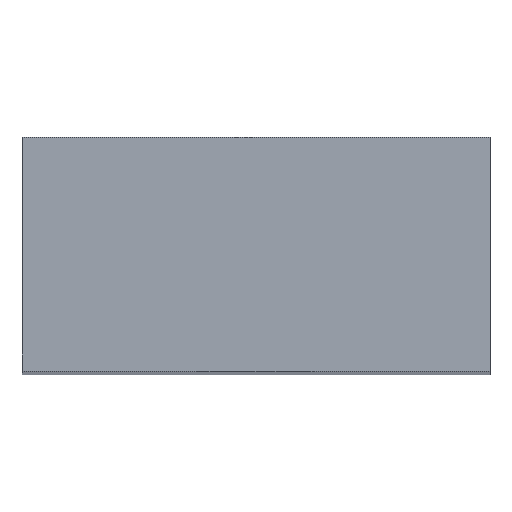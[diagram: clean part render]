
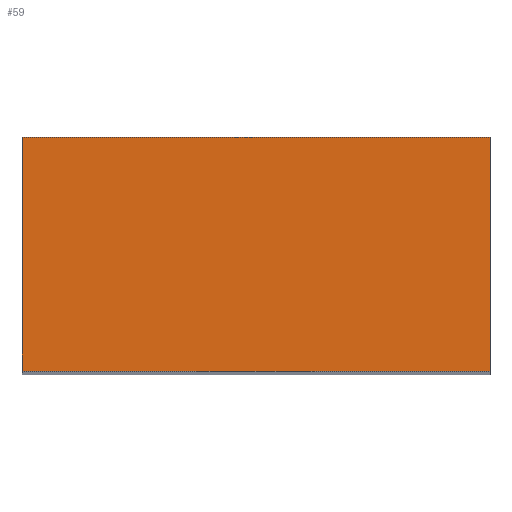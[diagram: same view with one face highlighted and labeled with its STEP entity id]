
A CAD part, top view. The second image highlights one B-rep face of the part: STEP entity #59.
In plain terms, the highlighted planar face has unit normal (0, 0, 1).
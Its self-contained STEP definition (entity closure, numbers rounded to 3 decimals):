
#47=FACE_OUTER_BOUND('',#137,.T.);
#59=ADVANCED_FACE('',(#47),#68,.T.);
#68=PLANE('',#260);
#69=LINE('',#333,#81);
#73=LINE('',#342,#85);
#76=LINE('',#350,#88);
#79=LINE('',#356,#91);
#81=VECTOR('',#270,1.);
#85=VECTOR('',#276,1.);
#88=VECTOR('',#283,1.);
#91=VECTOR('',#288,1.);
#137=EDGE_LOOP('',(#178,#179,#180,#181));
#178=ORIENTED_EDGE('',*,*,#209,.T.);
#179=ORIENTED_EDGE('',*,*,#213,.T.);
#180=ORIENTED_EDGE('',*,*,#217,.T.);
#181=ORIENTED_EDGE('',*,*,#220,.T.);
#189=VERTEX_POINT('',#334);
#190=VERTEX_POINT('',#335);
#193=VERTEX_POINT('',#343);
#196=VERTEX_POINT('',#351);
#209=EDGE_CURVE('',#189,#190,#69,.T.);
#213=EDGE_CURVE('',#190,#193,#73,.T.);
#217=EDGE_CURVE('',#193,#196,#76,.T.);
#220=EDGE_CURVE('',#196,#189,#79,.T.);
#260=AXIS2_PLACEMENT_3D('',#380,#318,#319);
#270=DIRECTION('',(-1.,0.,0.));
#276=DIRECTION('',(0.,-1.,0.));
#283=DIRECTION('',(1.,0.,0.));
#288=DIRECTION('',(0.,1.,0.));
#318=DIRECTION('',(0.,0.,1.));
#319=DIRECTION('',(1.,0.,0.));
#333=CARTESIAN_POINT('',(20.,10.,94.5));
#334=CARTESIAN_POINT('',(20.,10.,94.5));
#335=CARTESIAN_POINT('',(0.,10.,94.5));
#342=CARTESIAN_POINT('',(0.,10.,94.5));
#343=CARTESIAN_POINT('',(0.,0.,94.5));
#350=CARTESIAN_POINT('',(0.,0.,94.5));
#351=CARTESIAN_POINT('',(20.,0.,94.5));
#356=CARTESIAN_POINT('',(20.,0.,94.5));
#380=CARTESIAN_POINT('',(0.,0.,94.5));
